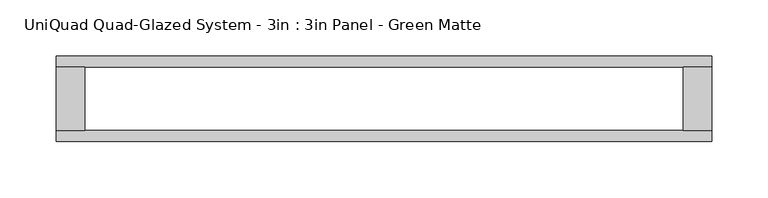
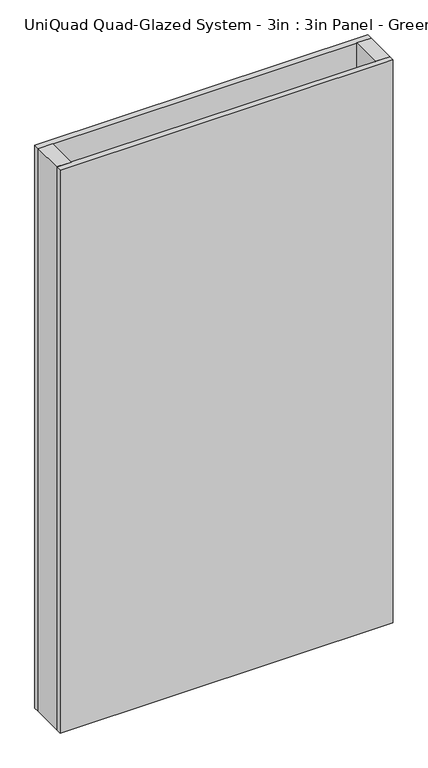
"""IFC4 building model written with IfcOpenShell, lengths in millimetres: plate geometry, UniQuad Quad-Glazed System - 3in : 3in Panel - Green Matte."""

from ifc_helpers import new_model, si_unit, origin, origin_with_axes, place, context, project, spatial, polyline, outline, extrude, source, transform, mapped, element, save


def uniquad_quad_glazed_system_3in_3in_panel_green_matte_5bbcedde(model_context):
    return source(origin(), model_context, "Body", "SweptSolid", [
        extrude(outline(polyline([(291.6687995, 28.0924), (291.6687995, -28.0924), (266.2687995, -28.0924), (266.2687995, 28.0924), (291.6687995, 28.0924)])), origin_with_axes(), (0.0, 0.0, 1.0), 1041.4),
        extrude(outline(polyline([(-291.6687995, 28.0924), (-266.2687995, 28.0924), (-266.2687995, -28.0924), (-291.6687995, -28.0924), (-291.6687995, 28.0924)])), origin_with_axes(), (0.0, 0.0, 1.0), 1041.4),
        extrude(outline(polyline([(291.6687995, -28.0924), (291.6687995, -38.1), (-291.6687995, -38.1), (-291.6687995, -28.0924), (291.6687995, -28.0924)])), origin_with_axes(), (0.0, 0.0, 1.0), 1041.4),
        extrude(outline(polyline([(291.6687995, 38.1), (291.6687995, 28.0924), (-291.6687995, 28.0924), (-291.6687995, 38.1), (291.6687995, 38.1)])), origin_with_axes(), (0.0, 0.0, 1.0), 1041.4),
    ])


if __name__ == "__main__":
    model = new_model("IFC4")
    model_context = context("Model", 3, world=origin())
    ifc_project = project(units=[si_unit("LENGTHUNIT", "METRE", prefix="MILLI")], contexts=[model_context])
    site = spatial("IfcSite", under=ifc_project)
    building = spatial("IfcBuilding", under=site)
    placement = place(None, origin())
    uniquad_quad_glazed_system_3in_3in_panel_green_matte_shape = uniquad_quad_glazed_system_3in_3in_panel_green_matte_5bbcedde(model_context)
    element("IfcPlate", 1, ObjectType="UniQuad Quad-Glazed System - 3in : 3in Panel - Green Matte", at=placement, inside=building, context=model_context, shape_type="MappedRepresentation", body=[
        mapped(uniquad_quad_glazed_system_3in_3in_panel_green_matte_shape, transform((0.0, 0.0, 0.0), x_axis=(1.0, 0.0, 0.0), y_axis=(0.0, 1.0, 0.0), z_axis=(0.0, 0.0, 1.0))),
    ])
    save(model, "model.ifc")
